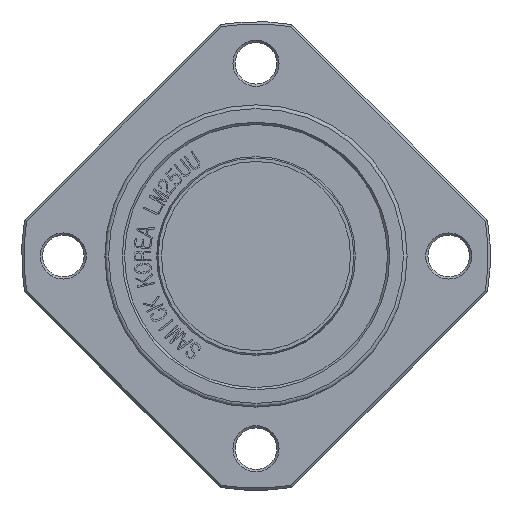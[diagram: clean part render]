
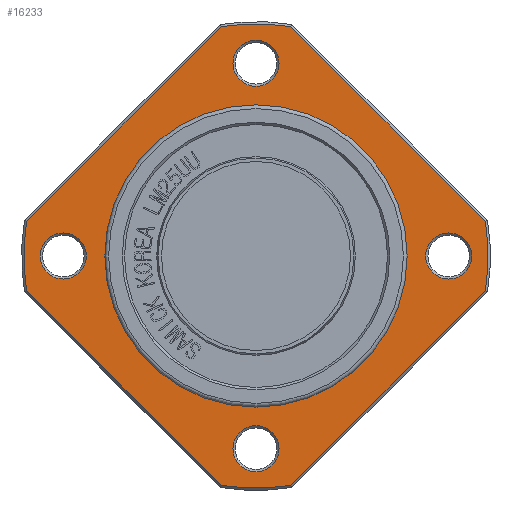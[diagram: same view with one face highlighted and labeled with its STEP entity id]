
A CAD part, front view. The second image highlights one B-rep face of the part: STEP entity #16233.
In plain terms, the highlighted planar face has unit normal (0, -1, 0).
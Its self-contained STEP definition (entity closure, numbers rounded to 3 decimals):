
#2304=FACE_BOUND('',#3515,.T.);
#2305=FACE_BOUND('',#3516,.T.);
#2306=FACE_BOUND('',#3517,.T.);
#2307=FACE_BOUND('',#3518,.T.);
#2308=FACE_BOUND('',#3519,.T.);
#2362=PLANE('',#17167);
#2611=FACE_OUTER_BOUND('',#3514,.T.);
#3514=EDGE_LOOP('',(#11186,#11187,#11188,#11189,#11190,#11191,#11192,#11193));
#3515=EDGE_LOOP('',(#11194));
#3516=EDGE_LOOP('',(#11195));
#3517=EDGE_LOOP('',(#11196,#11197));
#3518=EDGE_LOOP('',(#11198));
#3519=EDGE_LOOP('',(#11199));
#4472=LINE('',#19524,#5668);
#4473=LINE('',#19528,#5669);
#4474=LINE('',#19532,#5670);
#4475=LINE('',#19536,#5671);
#5668=VECTOR('',#17574,10.);
#5669=VECTOR('',#17577,10.);
#5670=VECTOR('',#17580,10.);
#5671=VECTOR('',#17583,10.);
#6871=CIRCLE('',#17165,3.05);
#6873=CIRCLE('',#17168,30.7);
#6874=CIRCLE('',#17169,30.7);
#6875=CIRCLE('',#17170,30.7);
#6876=CIRCLE('',#17171,30.7);
#6877=CIRCLE('',#17172,3.05);
#6878=CIRCLE('',#17173,3.05);
#6879=CIRCLE('',#17174,20.);
#6880=CIRCLE('',#17175,20.);
#6881=CIRCLE('',#17176,3.05);
#6965=VERTEX_POINT('',#19516);
#6967=VERTEX_POINT('',#19522);
#6968=VERTEX_POINT('',#19523);
#6969=VERTEX_POINT('',#19525);
#6970=VERTEX_POINT('',#19527);
#6971=VERTEX_POINT('',#19529);
#6972=VERTEX_POINT('',#19531);
#6973=VERTEX_POINT('',#19533);
#6974=VERTEX_POINT('',#19535);
#6975=VERTEX_POINT('',#19538);
#6976=VERTEX_POINT('',#19540);
#6977=VERTEX_POINT('',#19542);
#6978=VERTEX_POINT('',#19543);
#6979=VERTEX_POINT('',#19546);
#8651=EDGE_CURVE('',#6965,#6965,#6871,.T.);
#8654=EDGE_CURVE('',#6967,#6968,#4472,.T.);
#8655=EDGE_CURVE('',#6967,#6969,#6873,.T.);
#8656=EDGE_CURVE('',#6970,#6969,#4473,.T.);
#8657=EDGE_CURVE('',#6970,#6971,#6874,.T.);
#8658=EDGE_CURVE('',#6972,#6971,#4474,.T.);
#8659=EDGE_CURVE('',#6972,#6973,#6875,.T.);
#8660=EDGE_CURVE('',#6974,#6973,#4475,.T.);
#8661=EDGE_CURVE('',#6974,#6968,#6876,.T.);
#8662=EDGE_CURVE('',#6975,#6975,#6877,.T.);
#8663=EDGE_CURVE('',#6976,#6976,#6878,.T.);
#8664=EDGE_CURVE('',#6977,#6978,#6879,.T.);
#8665=EDGE_CURVE('',#6978,#6977,#6880,.T.);
#8666=EDGE_CURVE('',#6979,#6979,#6881,.T.);
#11186=ORIENTED_EDGE('',*,*,#8654,.F.);
#11187=ORIENTED_EDGE('',*,*,#8655,.T.);
#11188=ORIENTED_EDGE('',*,*,#8656,.F.);
#11189=ORIENTED_EDGE('',*,*,#8657,.T.);
#11190=ORIENTED_EDGE('',*,*,#8658,.F.);
#11191=ORIENTED_EDGE('',*,*,#8659,.T.);
#11192=ORIENTED_EDGE('',*,*,#8660,.F.);
#11193=ORIENTED_EDGE('',*,*,#8661,.T.);
#11194=ORIENTED_EDGE('',*,*,#8662,.F.);
#11195=ORIENTED_EDGE('',*,*,#8663,.F.);
#11196=ORIENTED_EDGE('',*,*,#8664,.F.);
#11197=ORIENTED_EDGE('',*,*,#8665,.F.);
#11198=ORIENTED_EDGE('',*,*,#8666,.F.);
#11199=ORIENTED_EDGE('',*,*,#8651,.F.);
#16233=ADVANCED_FACE('',(#2611,#2304,#2305,#2306,#2307,#2308),#2362,.T.);
#17165=AXIS2_PLACEMENT_3D('',#19517,#17567,#17568);
#17167=AXIS2_PLACEMENT_3D('',#19521,#17572,#17573);
#17168=AXIS2_PLACEMENT_3D('',#19526,#17575,#17576);
#17169=AXIS2_PLACEMENT_3D('',#19530,#17578,#17579);
#17170=AXIS2_PLACEMENT_3D('',#19534,#17581,#17582);
#17171=AXIS2_PLACEMENT_3D('',#19537,#17584,#17585);
#17172=AXIS2_PLACEMENT_3D('',#19539,#17586,#17587);
#17173=AXIS2_PLACEMENT_3D('',#19541,#17588,#17589);
#17174=AXIS2_PLACEMENT_3D('',#19544,#17590,#17591);
#17175=AXIS2_PLACEMENT_3D('',#19545,#17592,#17593);
#17176=AXIS2_PLACEMENT_3D('',#19547,#17594,#17595);
#17567=DIRECTION('center_axis',(0.,-1.,0.));
#17568=DIRECTION('ref_axis',(1.,0.,0.));
#17572=DIRECTION('center_axis',(0.,-1.,0.));
#17573=DIRECTION('ref_axis',(0.,0.,-1.));
#17574=DIRECTION('',(-0.707,0.,-0.707));
#17575=DIRECTION('center_axis',(0.,-1.,0.));
#17576=DIRECTION('ref_axis',(1.,0.,0.));
#17577=DIRECTION('',(0.707,0.,-0.707));
#17578=DIRECTION('center_axis',(0.,-1.,0.));
#17579=DIRECTION('ref_axis',(1.,0.,0.));
#17580=DIRECTION('',(0.707,0.,0.707));
#17581=DIRECTION('center_axis',(0.,-1.,0.));
#17582=DIRECTION('ref_axis',(1.,0.,0.));
#17583=DIRECTION('',(-0.707,0.,0.707));
#17584=DIRECTION('center_axis',(0.,-1.,0.));
#17585=DIRECTION('ref_axis',(1.,0.,0.));
#17586=DIRECTION('center_axis',(0.,-1.,0.));
#17587=DIRECTION('ref_axis',(0.,0.,-1.));
#17588=DIRECTION('center_axis',(0.,-1.,0.));
#17589=DIRECTION('ref_axis',(0.,0.,
1.));
#17590=DIRECTION('center_axis',(0.,-1.,0.));
#17591=DIRECTION('ref_axis',(1.,0.,0.));
#17592=DIRECTION('center_axis',(0.,-1.,0.));
#17593=DIRECTION('ref_axis',(1.,0.,0.));
#17594=DIRECTION('center_axis',(0.,-1.,0.));
#17595=DIRECTION('ref_axis',(-1.,0.,0.));
#19516=CARTESIAN_POINT('',(22.45,40.,0.));
#19517=CARTESIAN_POINT('Origin',(25.5,40.,0.));
#19521=CARTESIAN_POINT('Origin',(20.,40.,0.));
#19522=CARTESIAN_POINT('',(30.357,40.,-4.574));
#19523=CARTESIAN_POINT('',(4.574,40.,-30.357));
#19524=CARTESIAN_POINT('',(15.985,40.,-18.946));
#19525=CARTESIAN_POINT('',(30.357,40.,4.574));
#19526=CARTESIAN_POINT('Origin',(0.,40.,0.));
#19527=CARTESIAN_POINT('',(4.574,40.,30.357));
#19528=CARTESIAN_POINT('',(28.946,40.,5.985));
#19529=CARTESIAN_POINT('',(-4.574,40.,30.357));
#19530=CARTESIAN_POINT('Origin',(0.,40.,0.));
#19531=CARTESIAN_POINT('',(-30.357,40.,4.574));
#19532=CARTESIAN_POINT('',(-5.985,40.,28.946));
#19533=CARTESIAN_POINT('',(-30.357,40.,-4.574));
#19534=CARTESIAN_POINT('Origin',(0.,40.,0.));
#19535=CARTESIAN_POINT('',(-4.574,40.,-30.357));
#19536=CARTESIAN_POINT('',(-18.946,40.,-15.985));
#19537=CARTESIAN_POINT('Origin',(0.,40.,0.));
#19538=CARTESIAN_POINT('',(0.,40.,-22.45));
#19539=CARTESIAN_POINT('Origin',(0.,40.,-25.5));
#19540=CARTESIAN_POINT('',(0.,40.,22.45));
#19541=CARTESIAN_POINT('Origin',(0.,40.,25.5));
#19542=CARTESIAN_POINT('',(20.,40.,0.));
#19543=CARTESIAN_POINT('',(-20.,40.,0.));
#19544=CARTESIAN_POINT('Origin',(0.,40.,0.));
#19545=CARTESIAN_POINT('Origin',(0.,40.,0.));
#19546=CARTESIAN_POINT('',(-22.45,40.,0.));
#19547=CARTESIAN_POINT('Origin',(-25.5,40.,0.));
